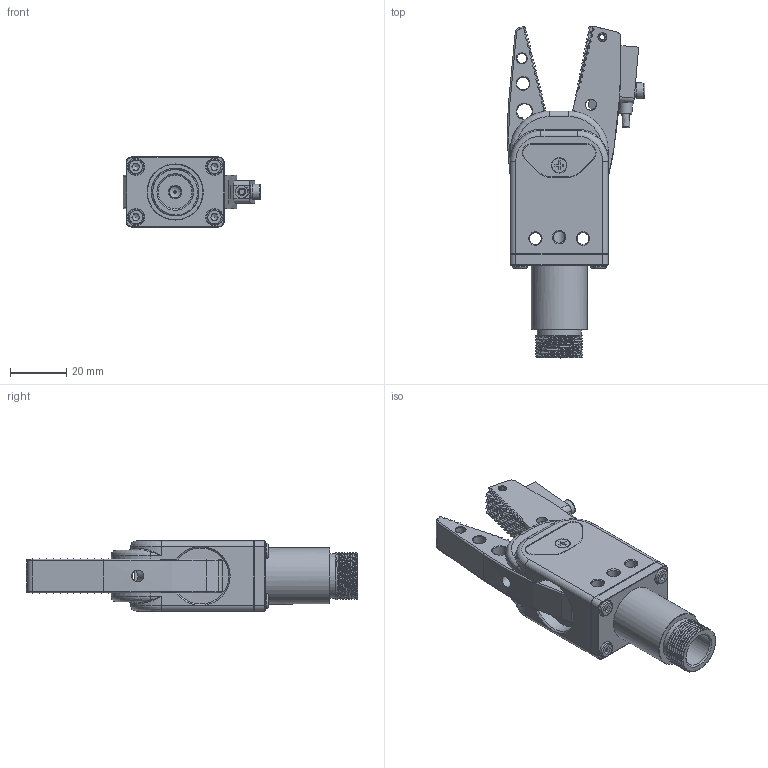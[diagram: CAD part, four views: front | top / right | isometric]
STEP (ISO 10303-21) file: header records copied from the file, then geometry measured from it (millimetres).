
FILE_DESCRIPTION(/* description */ (''),/* implementation_level */ '2;1');
FILE_NAME(/* name */ 'GR20H-20-CN.stp',/* time_stamp */ '2023-03-08T16:27:02+08:00',/* author */ (''),/* organization */ (''),/* preprocessor_version */ 'ST-DEVELOPER v16',/* originating_system */ 'SIEMENS PLM Software NX 10.0',/* authorisation */ '');
FILE_SCHEMA (('AUTOMOTIVE_DESIGN { 1 0 10303 214 3 1 1 1 }'));
Products named in the file (1): Admi115498B06jha
Bounding box: 49.16 x 118.44 x 25 mm (x, y, z)
Volume: 53431.1 mm3; surface area: 24262.2 mm2
Topology: 7 solids, 22 shells, 1769 faces, 4567 edges, 2970 vertices
Faces by surface type: plane 1365, cylinder 179, cone 152, bspline 38, revolution 35
Full cylindrical faces by diameter (mm): 0.8 x1, 2.5 x4, 3 x29, 3.2 x2, 3.3 x1, 3.4 x5, 3.5 x1, 3.541 x4, 4 x24, 4.2 x7, 4.3 x1, 4.5 x2, 5 x4, 5.2 x1, 5.5 x7, 6 x4, 7 x1, 7.8 x2, 12 x1, 15.8 x1, 20 x1
Entity records: 80452 total; most frequent: CARTESIAN_POINT 27003, ORIENTED_EDGE 8264, DIRECTION 8003, EDGE_CURVE 4132, LINE 3394, VECTOR 3394, VERTEX_POINT 2812, AXIS2_PLACEMENT_3D 2287
